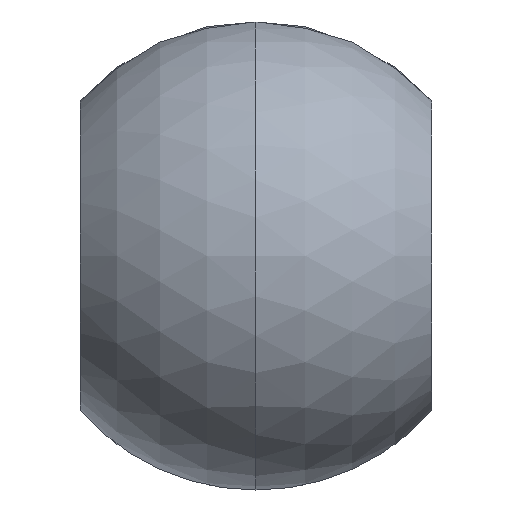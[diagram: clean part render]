
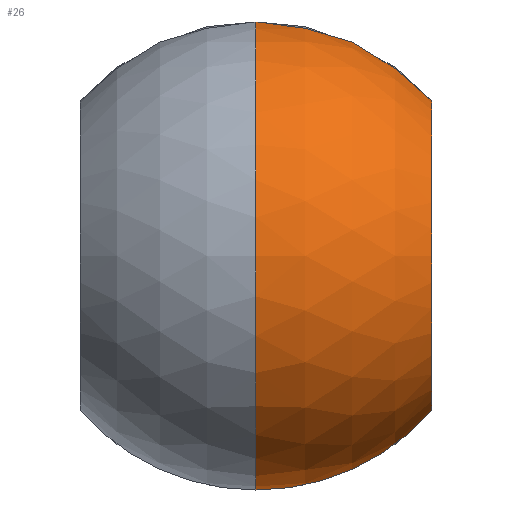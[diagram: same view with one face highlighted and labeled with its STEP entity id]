
A CAD part, left-side view. The second image highlights one B-rep face of the part: STEP entity #26.
In plain terms, the highlighted spherical face has radius 4 mm.
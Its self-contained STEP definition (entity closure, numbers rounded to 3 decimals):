
#4 = DIRECTION ( 'NONE',  ( 0., 0., 1. ) ) ;
#16 = ORIENTED_EDGE ( 'NONE', *, *, #529, .F. ) ;
#18 = CARTESIAN_POINT ( 'NONE',  ( 0., 0., 0. ) ) ;
#24 = DIRECTION ( 'NONE',  ( 0., -1., 0. ) ) ;
#26 = ADVANCED_FACE ( 'NONE', ( #419, #404 ), #384, .T. ) ;
#28 = CIRCLE ( 'NONE', #459, 2.646 ) ;
#43 = DIRECTION ( 'NONE',  ( 0., -1., 0. ) ) ;
#52 = DIRECTION ( 'NONE',  ( -1., 0., 0. ) ) ;
#53 = CARTESIAN_POINT ( 'NONE',  ( 0., -3., 0. ) ) ;
#57 = EDGE_LOOP ( 'NONE', ( #250, #305 ) ) ;
#66 = CARTESIAN_POINT ( 'NONE',  ( 0., -3., 2.646 ) ) ;
#96 = EDGE_CURVE ( 'NONE', #203, #540, #262, .T. ) ;
#116 = ORIENTED_EDGE ( 'NONE', *, *, #189, .T. ) ;
#129 = DIRECTION ( 'NONE',  ( 0., 0., 1. ) ) ;
#147 = DIRECTION ( 'NONE',  ( 0., 0., -1. ) ) ;
#155 = EDGE_CURVE ( 'NONE', #194, #385, #399, .T. ) ;
#168 = CARTESIAN_POINT ( 'NONE',  ( 3.122, 0., 0. ) ) ;
#181 = AXIS2_PLACEMENT_3D ( 'NONE', #168, #52, #129 ) ;
#189 = EDGE_CURVE ( 'NONE', #540, #494, #210, .T. ) ;
#194 = VERTEX_POINT ( 'NONE', #352 ) ;
#203 = VERTEX_POINT ( 'NONE', #264 ) ;
#205 = CARTESIAN_POINT ( 'NONE',  ( 0., 0., 0. ) ) ;
#210 = CIRCLE ( 'NONE', #241, 4. ) ;
#224 = DIRECTION ( 'NONE',  ( 0., -1., 0. ) ) ;
#241 = AXIS2_PLACEMENT_3D ( 'NONE', #18, #491, #355 ) ;
#250 = ORIENTED_EDGE ( 'NONE', *, *, #155, .F. ) ;
#262 = CIRCLE ( 'NONE', #181, 2.5 ) ;
#264 = CARTESIAN_POINT ( 'NONE',  ( 3.122, 0., -2.5 ) ) ;
#270 = AXIS2_PLACEMENT_3D ( 'NONE', #205, #43, #335 ) ;
#303 = DIRECTION ( 'NONE',  ( 0., 0., -1. ) ) ;
#305 = ORIENTED_EDGE ( 'NONE', *, *, #373, .F. ) ;
#334 = CIRCLE ( 'NONE', #380, 4. ) ;
#335 = DIRECTION ( 'NONE',  ( 0., 0., -1. ) ) ;
#352 = CARTESIAN_POINT ( 'NONE',  ( 0., -3., -2.646 ) ) ;
#355 = DIRECTION ( 'NONE',  ( 0., 0., -1. ) ) ;
#371 = CARTESIAN_POINT ( 'NONE',  ( 0., -3., 0. ) ) ;
#373 = EDGE_CURVE ( 'NONE', #385, #194, #28, .T. ) ;
#380 = AXIS2_PLACEMENT_3D ( 'NONE', #438, #571, #4 ) ;
#384 = SPHERICAL_SURFACE ( 'NONE', #270, 4. ) ;
#385 = VERTEX_POINT ( 'NONE', #66 ) ;
#391 = CARTESIAN_POINT ( 'NONE',  ( 3.122, 0., 2.5 ) ) ;
#399 = CIRCLE ( 'NONE', #521, 2.646 ) ;
#404 = FACE_OUTER_BOUND ( 'NONE', #562, .T. ) ;
#419 = FACE_BOUND ( 'NONE', #57, .T. ) ;
#438 = CARTESIAN_POINT ( 'NONE',  ( 0., 0., 0. ) ) ;
#459 = AXIS2_PLACEMENT_3D ( 'NONE', #371, #24, #147 ) ;
#470 = ORIENTED_EDGE ( 'NONE', *, *, #96, .T. ) ;
#472 = CARTESIAN_POINT ( 'NONE',  ( -4., 0., 0. ) ) ;
#491 = DIRECTION ( 'NONE',  ( 0., -1., 0. ) ) ;
#494 = VERTEX_POINT ( 'NONE', #472 ) ;
#521 = AXIS2_PLACEMENT_3D ( 'NONE', #53, #224, #303 ) ;
#529 = EDGE_CURVE ( 'NONE', #203, #494, #334, .T. ) ;
#540 = VERTEX_POINT ( 'NONE', #391 ) ;
#562 = EDGE_LOOP ( 'NONE', ( #470, #116, #16 ) ) ;
#571 = DIRECTION ( 'NONE',  ( 0., 1., 0. ) ) ;
